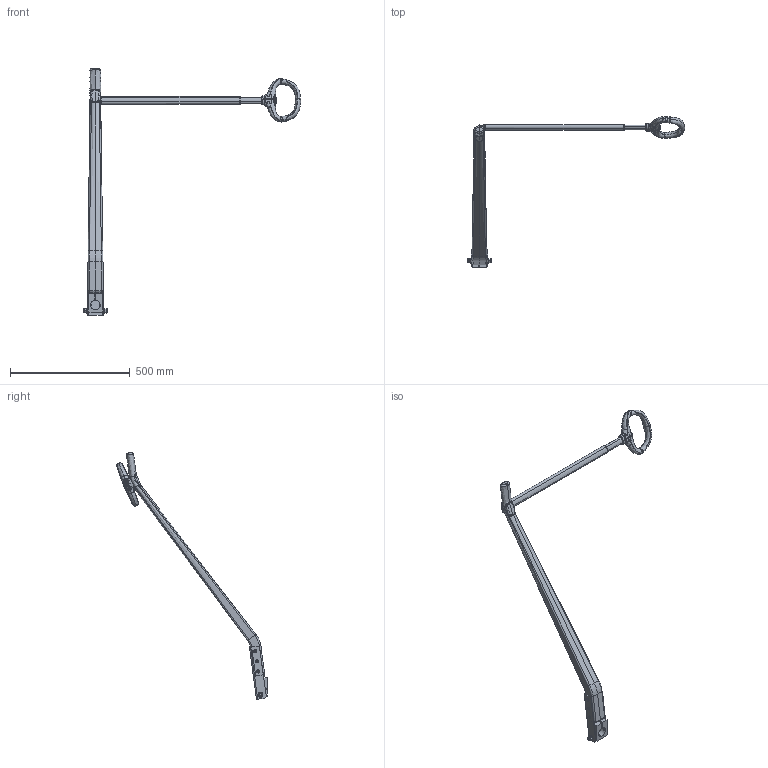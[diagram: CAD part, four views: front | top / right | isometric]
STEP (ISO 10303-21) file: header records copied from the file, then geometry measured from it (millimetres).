
FILE_DESCRIPTION (( 'STEP AP203' ), '1' );
FILE_NAME ('GRP-TILLER.STEP', '2013-04-19T10:40:45', ( '' ), ( '' ), 'SwSTEP 2.0', 'SolidWorks 2013', '' );
FILE_SCHEMA (( 'CONFIG_CONTROL_DESIGN' ));
Length unit declared in the file: millimetre
Products named in the file (15): Spinlock tiller extension for Klaus.sldasm-Part-2-019; StudBoltMFS_DIN_DIN 976-2 -- MFS M10 x 100 --- N; Spinlock tiller extension for Klaus-019; Socket Head Cap Screw_AM_B18.3.1M - 10 x 1.5 x 45 Hex SHCS -- 32NHX; GRP-TILLER; Torque nut 09_ISO_ISO 10512-M10x1.25-N; Plain Washer Normal Grade A_ISO_Washer ISO 7089 - 10; Socket Set Screw Cup Point_ISO_ISO 4029 - M10 x 12-N; M56-xxx fro 47xxx-019_40mm tillerhead; Rorpind-019; M56-150 lille U-profil til 47xxx-019; Z-DIN7991-M06x12 Socket countersunk UH A2 M6x12-019_DIN 7991 - M6 x 25 --- 18.7S; Socket Set Screw Cup Point_ISO_ISO 4029 - M10 x 30-N; Spinlock tiller extension for Klaus.sldasm-Part-1-019; Hex Thin Nut GradeB_ISO_Hexagon Nut ISO - 4036 - M10 - N
Assembly tree (24 placements, depth 3):
  GRP-TILLER
    M56-xxx fro 47xxx-019_40mm tillerhead
    M56-150 lille U-profil til 47xxx-019
    Socket Set Screw Cup Point_ISO_ISO 4029 - M10 x 30-N  x2
    Hex Thin Nut GradeB_ISO_Hexagon Nut ISO - 4036 - M10 - N  x2
    StudBoltMFS_DIN_DIN 976-2 -- MFS M10 x 100 --- N
    Socket Head Cap Screw_AM_B18.3.1M - 10 x 1.5 x 45 Hex SHCS -- 32NHX
    Torque nut 09_ISO_ISO 10512-M10x1.25-N  x2
    Plain Washer Normal Grade A_ISO_Washer ISO 7089 - 10  x2
    Socket Set Screw Cup Point_ISO_ISO 4029 - M10 x 12-N  x2
    Rorpind-019
    Z-DIN7991-M06x12 Socket countersunk UH A2 M6x12-019_DIN 7991 - M6 x 25 --- 18.7S  x6
    Spinlock tiller extension for Klaus-019
      Spinlock tiller extension for Klaus.sldasm-Part-1-019
      Spinlock tiller extension for Klaus.sldasm-Part-2-019
Bounding box: 908.54 x 628.15 x 1031.41 mm (x, y, z)
Volume: 2303090.7 mm3; surface area: 401868.4 mm2
Topology: 22 solids, 51 shells, 1110 faces, 3486 edges, 2401 vertices
Faces by surface type: bspline 295, cone 287, plane 276, cylinder 221, torus 22, sphere 9
Entity records: 70511 total; most frequent: CARTESIAN_POINT 51295, ORIENTED_EDGE 4597, EDGE_CURVE 2532, DIRECTION 1920, VERTEX_POINT 1842, B_SPLINE_CURVE_WITH_KNOTS 1694, EDGE_LOOP 796, AXIS2_PLACEMENT_3D 777
